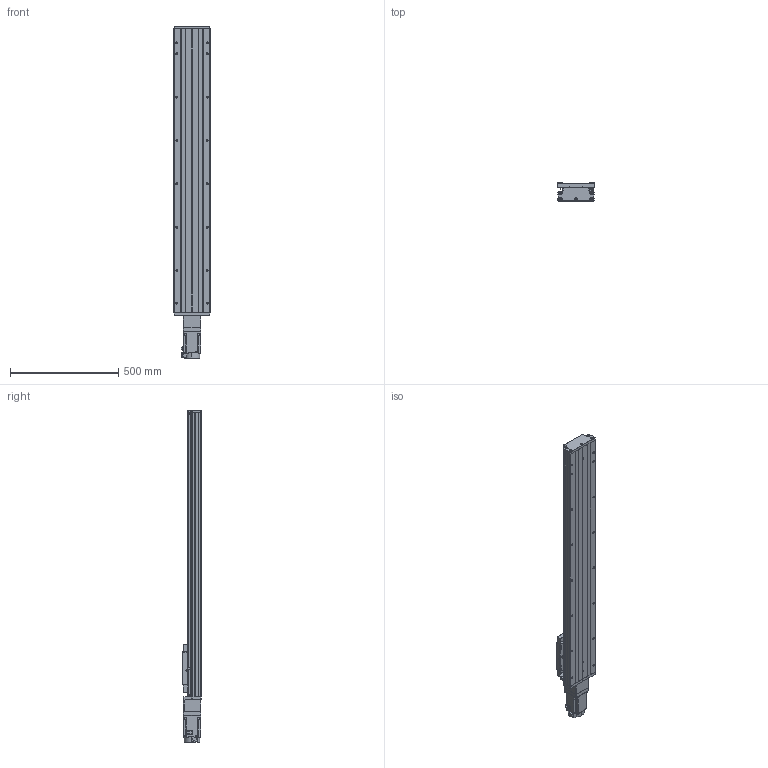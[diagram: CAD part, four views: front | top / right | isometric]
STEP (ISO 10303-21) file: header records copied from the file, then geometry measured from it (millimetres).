
FILE_DESCRIPTION (( 'STEP AP203' ), '1' );
FILE_NAME ('GTH17-1050-BC-M75-C4.step', '2023-06-30T11:19:50', ( '微软用户' ), ( '微软中国' ), 'SwSTEP 2.0', 'SolidWorks 2020', '' );
FILE_SCHEMA (( 'CONFIG_CONTROL_DESIGN' ));
Length unit declared in the file: millimetre
Products named in the file (20): GB1155-6X6; GTH17-031; HG-KN73J-S100; CTHA60-017; GBT 70.2-M3¡Á5_M3¡Á6; GTH17-1050-BC-M75-C4; EE_SX911P_R; す晦芛蹟隊 M3℅5; GTH17-001_1050; CTHA60-016; GBT 70.3-M3℅8; GTH17-002_GTH17-002; GBT 70.1-M3℅5; GTH17-006-2_M75; GTH17-004; GBT77-2000 M3×3; GTH17-013; GTH17-005; GBT 70.1-M6¡Á20_M6¡Á20; GTH17-027-1
Assembly tree (57 placements, depth 2):
  GTH17-1050-BC-M75-C4
    GTH17-001_1050
    GTH17-002_GTH17-002
    GTH17-004
    GTH17-005
    GB1155-6X6  x2
    CTHA60-017  x3
    EE_SX911P_R  x3
    CTHA60-016  x2
    GBT 70.1-M3℅5  x6
    GBT77-2000 M3×3  x6
    GBT 70.1-M6¡Á20_M6¡Á20  x10
    GTH17-031
    GBT 70.2-M3¡Á5_M3¡Á6  x8
    す晦芛蹟隊 M3℅5  x6
    GBT 70.3-M3℅8  x2
    GTH17-006-2_M75
    GTH17-013
    GTH17-027-1
    HG-KN73J-S100
Bounding box: 171 x 87 x 1531.2 mm (x, y, z)
Volume: 11497152.3 mm3; surface area: 1445341.2 mm2
Topology: 60 solids, 60 shells, 2434 faces, 5821 edges, 3611 vertices
Faces by surface type: plane 1309, cylinder 678, cone 287, torus 120, sphere 20, bspline 20
Entity records: 45761 total; most frequent: CARTESIAN_POINT 10527, DIRECTION 6657, ORIENTED_EDGE 6558, EDGE_CURVE 3279, AXIS2_PLACEMENT_3D 2275, LINE 2107, VECTOR 2107, VERTEX_POINT 2079
